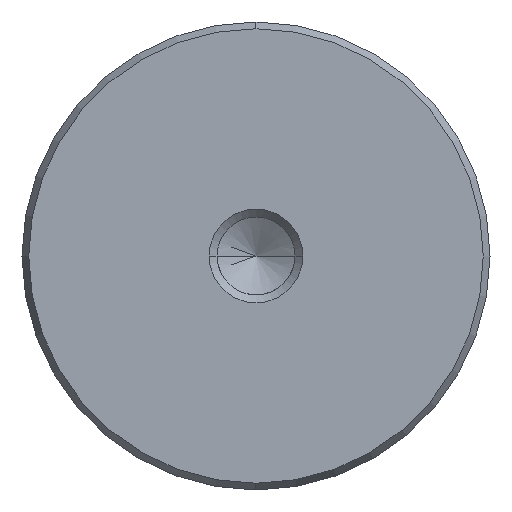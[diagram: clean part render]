
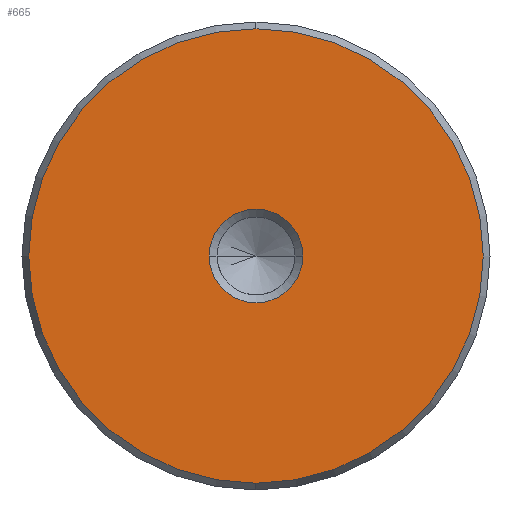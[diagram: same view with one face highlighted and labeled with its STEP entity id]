
A CAD part, left-side view. The second image highlights one B-rep face of the part: STEP entity #665.
In plain terms, the highlighted planar face has unit normal (-1, 0, 0).
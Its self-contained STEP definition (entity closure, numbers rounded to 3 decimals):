
#579=CARTESIAN_POINT('Vertex',(0.,0.,-19.423)) ;
#582=CARTESIAN_POINT('Axis2P3D Location',(0.,0.,0.)) ;
#586=CARTESIAN_POINT('Vertex',(0.,19.423,0.)) ;
#589=CARTESIAN_POINT('Axis2P3D Location',(0.,0.,0.)) ;
#593=CARTESIAN_POINT('Vertex',(0.,0.,19.423)) ;
#615=CARTESIAN_POINT('Axis2P3D Location',(0.,0.,0.)) ;
#619=CARTESIAN_POINT('Vertex',(0.,-19.423,0.)) ;
#622=CARTESIAN_POINT('Axis2P3D Location',(0.,0.,0.)) ;
#636=CARTESIAN_POINT('Axis2P3D Location',(0.,0.,0.)) ;
#647=CARTESIAN_POINT('Axis2P3D Location',(0.,0.,0.)) ;
#651=CARTESIAN_POINT('Vertex',(0.,4.,0.)) ;
#653=CARTESIAN_POINT('Vertex',(0.,-4.,0.)) ;
#656=CARTESIAN_POINT('Axis2P3D Location',(0.,0.,0.)) ;
#583=DIRECTION('Axis2P3D Direction',(1.,0.,-0.)) ;
#590=DIRECTION('Axis2P3D Direction',(1.,0.,-0.)) ;
#616=DIRECTION('Axis2P3D Direction',(1.,0.,-0.)) ;
#623=DIRECTION('Axis2P3D Direction',(1.,0.,-0.)) ;
#637=DIRECTION('Axis2P3D Direction',(1.,0.,-0.)) ;
#638=DIRECTION('Axis2P3D XDirection',(-0.,0.,-1.)) ;
#648=DIRECTION('Axis2P3D Direction',(1.,0.,-0.)) ;
#657=DIRECTION('Axis2P3D Direction',(1.,0.,-0.)) ;
#584=AXIS2_PLACEMENT_3D('Circle Axis2P3D',#582,#583,$) ;
#591=AXIS2_PLACEMENT_3D('Circle Axis2P3D',#589,#590,$) ;
#617=AXIS2_PLACEMENT_3D('Circle Axis2P3D',#615,#616,$) ;
#624=AXIS2_PLACEMENT_3D('Circle Axis2P3D',#622,#623,$) ;
#639=AXIS2_PLACEMENT_3D('Plane Axis2P3D',#636,#637,#638) ;
#649=AXIS2_PLACEMENT_3D('Circle Axis2P3D',#647,#648,$) ;
#658=AXIS2_PLACEMENT_3D('Circle Axis2P3D',#656,#657,$) ;
#642=ORIENTED_EDGE('',*,*,#588,.F.) ;
#643=ORIENTED_EDGE('',*,*,#626,.F.) ;
#644=ORIENTED_EDGE('',*,*,#621,.F.) ;
#645=ORIENTED_EDGE('',*,*,#595,.F.) ;
#662=ORIENTED_EDGE('',*,*,#655,.T.) ;
#663=ORIENTED_EDGE('',*,*,#660,.T.) ;
#664=FACE_BOUND('',#661,.T.) ;
#665=ADVANCED_FACE('720-40x355',(#646,#664),#640,.F.) ;
#585=CIRCLE('generated circle',#584,19.423) ;
#592=CIRCLE('generated circle',#591,19.423) ;
#618=CIRCLE('generated circle',#617,19.423) ;
#625=CIRCLE('generated circle',#624,19.423) ;
#650=CIRCLE('generated circle',#649,4.) ;
#659=CIRCLE('generated circle',#658,4.) ;
#588=EDGE_CURVE('',#580,#587,#585,.T.) ;
#595=EDGE_CURVE('',#587,#594,#592,.T.) ;
#621=EDGE_CURVE('',#594,#620,#618,.T.) ;
#626=EDGE_CURVE('',#620,#580,#625,.T.) ;
#655=EDGE_CURVE('',#652,#654,#650,.T.) ;
#660=EDGE_CURVE('',#654,#652,#659,.T.) ;
#641=EDGE_LOOP('',(#642,#643,#644,#645)) ;
#661=EDGE_LOOP('',(#662,#663)) ;
#646=FACE_OUTER_BOUND('',#641,.T.) ;
#640=PLANE('Plane',#639) ;
#580=VERTEX_POINT('',#579) ;
#587=VERTEX_POINT('',#586) ;
#594=VERTEX_POINT('',#593) ;
#620=VERTEX_POINT('',#619) ;
#652=VERTEX_POINT('',#651) ;
#654=VERTEX_POINT('',#653) ;
